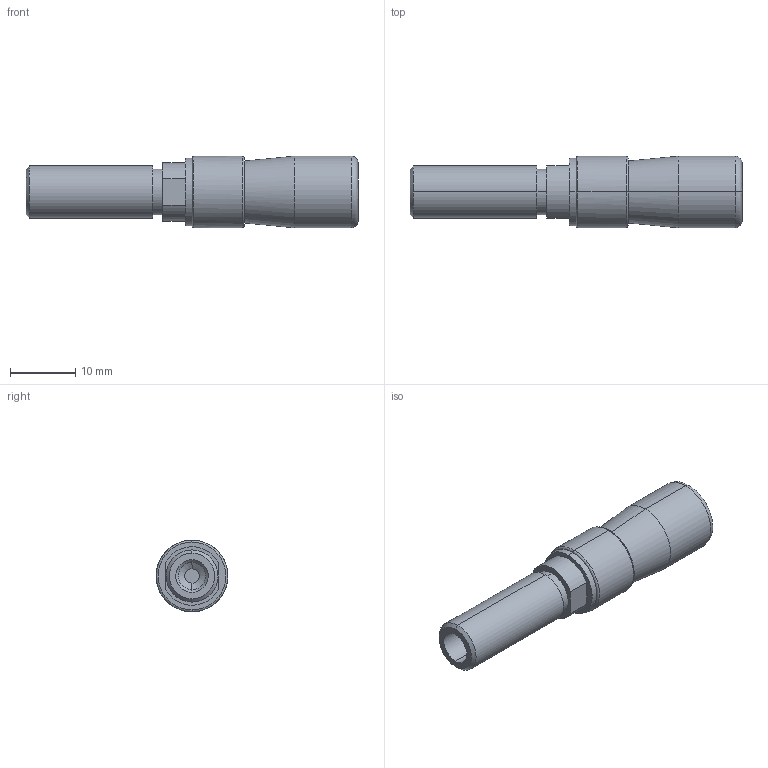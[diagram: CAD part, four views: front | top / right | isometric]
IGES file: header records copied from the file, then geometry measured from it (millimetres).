
Start section: ------------------------------------------------------------------------
Global section: file name: D:\ICADMX\tmp\trans3d_spg\TGMX25.1844.RBP009RCA_23204.igs; native system: spGate; preprocessor: ver11.3.7; author: Unknown; organization: Unknown; date: 150330.151227; units: millimetre
Bounding box: 51 x 10.99 x 11.01 mm (x, y, z)
Volume: 3395 mm3; surface area: 2045.4 mm2
Topology: 1 solids, 1 shells, 45 faces, 91 edges, 54 vertices
Faces by surface type: bspline 45
